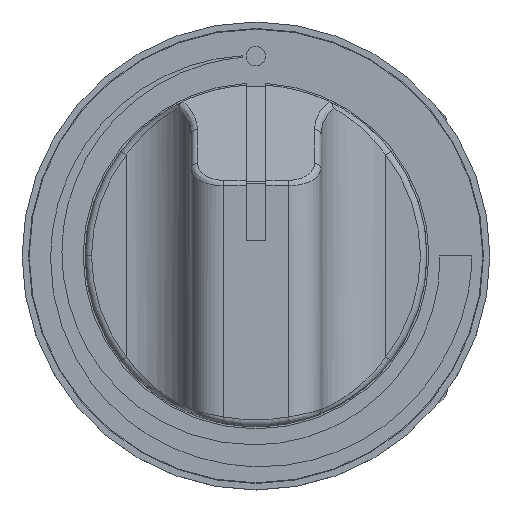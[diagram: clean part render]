
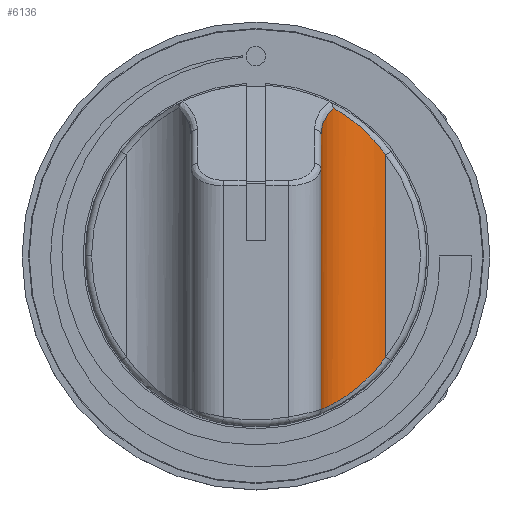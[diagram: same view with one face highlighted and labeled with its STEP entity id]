
A CAD part, top view. The second image highlights one B-rep face of the part: STEP entity #6136.
In plain terms, the highlighted cylindrical face has radius 10 mm (diameter 20 mm), a partial arc.
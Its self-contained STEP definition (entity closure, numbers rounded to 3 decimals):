
#177 = CARTESIAN_POINT ( 'NONE',  ( 10., -23.645, 17. ) ) ;
#189 = CARTESIAN_POINT ( 'NONE',  ( 10.643, 21.53, 12.893 ) ) ;
#362 = CARTESIAN_POINT ( 'NONE',  ( 10., -23.645, 17. ) ) ;
#382 = CARTESIAN_POINT ( 'NONE',  ( 13.113, 22.043, 9.734 ) ) ;
#486 = CARTESIAN_POINT ( 'NONE',  ( 20., -100., 17. ) ) ;
#704 = CARTESIAN_POINT ( 'NONE',  ( 16.772, -19.227, 7.531 ) ) ;
#1188 = CARTESIAN_POINT ( 'NONE',  ( 20., 15.495, 7. ) ) ;
#1321 = ORIENTED_EDGE ( 'NONE', *, *, #7297, .T. ) ;
#1475 = EDGE_CURVE ( 'NONE', #3181, #11119, #14339, .T. ) ;
#1656 = CARTESIAN_POINT ( 'NONE',  ( 13.202, -21.994, 9.634 ) ) ;
#1853 = CARTESIAN_POINT ( 'NONE',  ( 15.941, -19.973, 7.856 ) ) ;
#1942 = ORIENTED_EDGE ( 'NONE', *, *, #9254, .F. ) ;
#2800 = VECTOR ( 'NONE', #13071, 1000. ) ;
#3072 = CARTESIAN_POINT ( 'NONE',  ( 11.866, 22.758, 11.182 ) ) ;
#3181 = VERTEX_POINT ( 'NONE', #11528 ) ;
#3618 = CARTESIAN_POINT ( 'NONE',  ( 11.866, 22.758, 11.182 ) ) ;
#3654 = CARTESIAN_POINT ( 'NONE',  ( 10., -100., 17. ) ) ;
#4035 = CARTESIAN_POINT ( 'NONE',  ( 14.282, -21.266, 8.79 ) ) ;
#4147 = B_SPLINE_CURVE_WITH_KNOTS ( 'NONE', 3,
 ( #362, #9524, #10782, #5002, #14278, #13050, #6147, #5049, #6197, #9774, #13156, #7579, #1656, #10880, #4035, #12091, #14533, #12186, #1853, #5192, #704, #11077, #5147, #10982, #5285, #9718 ),
 .UNSPECIFIED., .F., .F.,
 ( 4, 2, 2, 2, 2, 2, 2, 2, 2, 2, 2, 2, 4 ),
 ( 0., 0.002, 0.003, 0.005, 0.006, 0.007, 0.009, 0.01, 0.012, 0.013, 0.014, 0.016, 0.019 ),
 .UNSPECIFIED. ) ;
#4312 = DIRECTION ( 'NONE',  ( 0., 0., -1. ) ) ;
#4427 = LINE ( 'NONE', #3654, #2800 ) ;
#4642 = ORIENTED_EDGE ( 'NONE', *, *, #10342, .T. ) ;
#4920 = CARTESIAN_POINT ( 'NONE',  ( 14.516, 21.101, 8.627 ) ) ;
#5002 = CARTESIAN_POINT ( 'NONE',  ( 10.356, -23.493, 14.328 ) ) ;
#5024 = CARTESIAN_POINT ( 'NONE',  ( 16.347, 19.62, 7.683 ) ) ;
#5049 = CARTESIAN_POINT ( 'NONE',  ( 11.207, -23.097, 12.222 ) ) ;
#5147 = CARTESIAN_POINT ( 'NONE',  ( 18.097, -17.89, 7.17 ) ) ;
#5192 = CARTESIAN_POINT ( 'NONE',  ( 16.495, -19.483, 7.63 ) ) ;
#5285 = CARTESIAN_POINT ( 'NONE',  ( 19.555, -16.127, 7. ) ) ;
#5286 = CARTESIAN_POINT ( 'NONE',  ( 20., 15.495, 7. ) ) ;
#5662 = VECTOR ( 'NONE', #13312, 1000. ) ;
#6035 = CARTESIAN_POINT ( 'NONE',  ( 10., 20.093, 14.896 ) ) ;
#6057 = VERTEX_POINT ( 'NONE', #177 ) ;
#6120 = CARTESIAN_POINT ( 'NONE',  ( 13.454, 21.828, 9.427 ) ) ;
#6136 = ADVANCED_FACE ( 'NONE', ( #12521 ), #8002, .F. ) ;
#6147 = CARTESIAN_POINT ( 'NONE',  ( 10.874, -23.257, 12.895 ) ) ;
#6170 = CARTESIAN_POINT ( 'NONE',  ( 12.459, 22.433, 10.415 ) ) ;
#6197 = CARTESIAN_POINT ( 'NONE',  ( 11.392, -23.005, 11.896 ) ) ;
#7119 = CARTESIAN_POINT ( 'NONE',  ( 16.707, 19.291, 7.55 ) ) ;
#7297 = EDGE_CURVE ( 'NONE', #6057, #3181, #4147, .T. ) ;
#7579 = CARTESIAN_POINT ( 'NONE',  ( 12.7, -22.296, 10.127 ) ) ;
#8002 = CYLINDRICAL_SURFACE ( 'NONE', #9811, 10. ) ;
#8113 = CARTESIAN_POINT ( 'NONE',  ( 19.413, 16.328, 7. ) ) ;
#8357 = VERTEX_POINT ( 'NONE', #3072 ) ;
#9254 = EDGE_CURVE ( 'NONE', #6057, #14080, #4427, .T. ) ;
#9443 = CARTESIAN_POINT ( 'NONE',  ( 17.418, 18.598, 7.332 ) ) ;
#9524 = CARTESIAN_POINT ( 'NONE',  ( 10., -23.645, 16.221 ) ) ;
#9718 = CARTESIAN_POINT ( 'NONE',  ( 20., -15.495, 7. ) ) ;
#9774 = CARTESIAN_POINT ( 'NONE',  ( 11.798, -22.795, 11.266 ) ) ;
#9811 = AXIS2_PLACEMENT_3D ( 'NONE', #486, #11921, #4312 ) ;
#10342 = EDGE_CURVE ( 'NONE', #11119, #8357, #14110, .T. ) ;
#10461 = CARTESIAN_POINT ( 'NONE',  ( 18.781, 17.118, 7.051 ) ) ;
#10598 = ORIENTED_EDGE ( 'NONE', *, *, #1475, .T. ) ;
#10782 = CARTESIAN_POINT ( 'NONE',  ( 10.09, -23.608, 15.455 ) ) ;
#10880 = CARTESIAN_POINT ( 'NONE',  ( 14.007, -21.458, 8.987 ) ) ;
#10982 = CARTESIAN_POINT ( 'NONE',  ( 19.084, -16.733, 7.03 ) ) ;
#11032 = CARTESIAN_POINT ( 'NONE',  ( 20., -100., 7. ) ) ;
#11077 = CARTESIAN_POINT ( 'NONE',  ( 17.58, -18.442, 7.281 ) ) ;
#11119 = VERTEX_POINT ( 'NONE', #5286 ) ;
#11468 = EDGE_CURVE ( 'NONE', #8357, #14080, #12978, .T. ) ;
#11528 = CARTESIAN_POINT ( 'NONE',  ( 20., -15.495, 7. ) ) ;
#11917 = CARTESIAN_POINT ( 'NONE',  ( 17.769, 18.235, 7.246 ) ) ;
#11921 = DIRECTION ( 'NONE',  ( 0., 1., 0. ) ) ;
#12091 = CARTESIAN_POINT ( 'NONE',  ( 14.832, -20.864, 8.433 ) ) ;
#12186 = CARTESIAN_POINT ( 'NONE',  ( 15.663, -20.206, 7.984 ) ) ;
#12521 = FACE_OUTER_BOUND ( 'NONE', #13353, .T. ) ;
#12878 = CARTESIAN_POINT ( 'NONE',  ( 10., 18.584, 17. ) ) ;
#12916 = CARTESIAN_POINT ( 'NONE',  ( 15.251, 20.543, 8.189 ) ) ;
#12971 = CARTESIAN_POINT ( 'NONE',  ( 12.151, 22.606, 10.785 ) ) ;
#12978 =( BOUNDED_CURVE ( )  B_SPLINE_CURVE ( 3, ( #3618, #189, #6035, #12878 ),
 .UNSPECIFIED., .F., .F. ) 
 B_SPLINE_CURVE_WITH_KNOTS ( ( 4, 4 ),
 ( 0.95, 1.571 ),
 .UNSPECIFIED. ) 
 CURVE ( )  GEOMETRIC_REPRESENTATION_ITEM ( )  RATIONAL_B_SPLINE_CURVE ( ( 1., 0.968, 0.968, 1. ) ) 
 REPRESENTATION_ITEM ( '' )  );
#13022 = ORIENTED_EDGE ( 'NONE', *, *, #11468, .T. ) ;
#13024 = CARTESIAN_POINT ( 'NONE',  ( 14.155, 21.357, 8.874 ) ) ;
#13050 = CARTESIAN_POINT ( 'NONE',  ( 10.725, -23.326, 13.242 ) ) ;
#13071 = DIRECTION ( 'NONE',  ( 0., 1., 0. ) ) ;
#13074 = CARTESIAN_POINT ( 'NONE',  ( 15.619, 20.246, 8.002 ) ) ;
#13156 = CARTESIAN_POINT ( 'NONE',  ( 12.016, -22.679, 10.968 ) ) ;
#13312 = DIRECTION ( 'NONE',  ( 0., 1., 0. ) ) ;
#13353 = EDGE_LOOP ( 'NONE', ( #1942, #1321, #10598, #4642, #13022 ) ) ;
#14080 = VERTEX_POINT ( 'NONE', #14451 ) ;
#14110 = B_SPLINE_CURVE_WITH_KNOTS ( 'NONE', 3,
 ( #1188, #8113, #10461, #11917, #9443, #7119, #5024, #13074, #12916, #4920, #13024, #6120, #382, #6170, #12971, #14250 ),
 .UNSPECIFIED., .F., .F.,
 ( 4, 2, 2, 2, 2, 2, 2, 4 ),
 ( 0., 0.003, 0.005, 0.006, 0.008, 0.009, 0.011, 0.012 ),
 .UNSPECIFIED. ) ;
#14250 = CARTESIAN_POINT ( 'NONE',  ( 11.866, 22.758, 11.182 ) ) ;
#14278 = CARTESIAN_POINT ( 'NONE',  ( 10.467, -23.444, 13.957 ) ) ;
#14339 = LINE ( 'NONE', #11032, #5662 ) ;
#14451 = CARTESIAN_POINT ( 'NONE',  ( 10., 18.584, 17. ) ) ;
#14533 = CARTESIAN_POINT ( 'NONE',  ( 15.109, -20.652, 8.272 ) ) ;
